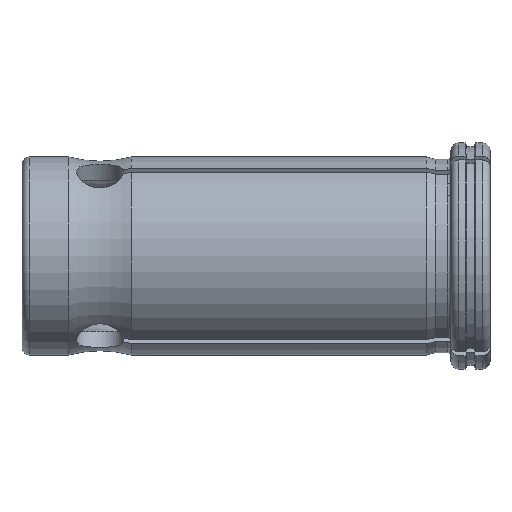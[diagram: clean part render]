
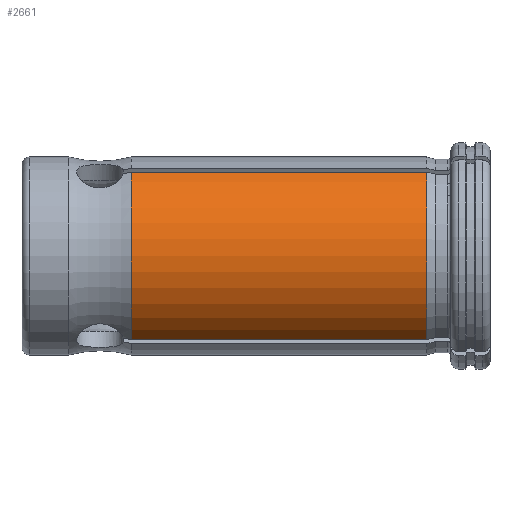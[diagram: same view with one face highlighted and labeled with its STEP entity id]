
A CAD part, top view. The second image highlights one B-rep face of the part: STEP entity #2661.
In plain terms, the highlighted cylindrical face has radius 12.7 mm (diameter 25.4 mm), a partial arc.
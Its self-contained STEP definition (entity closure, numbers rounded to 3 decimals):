
#784=CARTESIAN_POINT('',(-8.12,-10.74,6.778));
#786=CARTESIAN_POINT('',(-8.12,10.74,6.778));
#824=DIRECTION('',(1.,0.,0.));
#825=VECTOR('',#824,37.88);
#826=CARTESIAN_POINT('',(-46.,-10.74,6.778));
#827=LINE('',#826,#825);
#828=DIRECTION('',(1.,0.,0.));
#829=VECTOR('',#828,37.88);
#830=CARTESIAN_POINT('',(-46.,10.74,6.778));
#831=LINE('',#830,#829);
#832=CARTESIAN_POINT('',(-8.12,0.,0.));
#833=DIRECTION('',(1.,0.,0.));
#834=DIRECTION('',(0.,0.846,0.534));
#835=AXIS2_PLACEMENT_3D('',#832,#833,#834);
#868=CARTESIAN_POINT('',(-46.,0.,0.));
#869=DIRECTION('',(1.,0.,0.));
#870=DIRECTION('',(0.,0.846,0.534));
#871=AXIS2_PLACEMENT_3D('',#868,#869,#870);
#1724=VERTEX_POINT('',#786);
#1726=CARTESIAN_POINT('',(-46.,10.74,6.778));
#1727=VERTEX_POINT('',#1726);
#1796=VERTEX_POINT('',#784);
#1799=CARTESIAN_POINT('',(-46.,-10.74,6.778));
#1800=VERTEX_POINT('',#1799);
#2647=CARTESIAN_POINT('',(-63.,0.,0.));
#2648=DIRECTION('',(1.,0.,0.));
#2649=DIRECTION('',(0.,-1.,0.));
#2650=AXIS2_PLACEMENT_3D('',#2647,#2648,#2649);
#2651=CYLINDRICAL_SURFACE('',#2650,12.7);
#2653=ORIENTED_EDGE('',*,*,#2652,.F.);
#2655=ORIENTED_EDGE('',*,*,#2654,.F.);
#2657=ORIENTED_EDGE('',*,*,#2656,.T.);
#2658=ORIENTED_EDGE('',*,*,#2607,.T.);
#2659=EDGE_LOOP('',(#2653,#2655,#2657,#2658));
#2660=FACE_OUTER_BOUND('',#2659,.F.);
#2661=ADVANCED_FACE('',(#2660),#2651,.T.);
#836=CIRCLE('',#835,12.7);
#872=CIRCLE('',#871,12.7);
#2607=EDGE_CURVE('',#1724,#1796,#836,.T.);
#2652=EDGE_CURVE('',#1800,#1796,#827,.T.);
#2654=EDGE_CURVE('',#1727,#1800,#872,.T.);
#2656=EDGE_CURVE('',#1727,#1724,#831,.T.);
